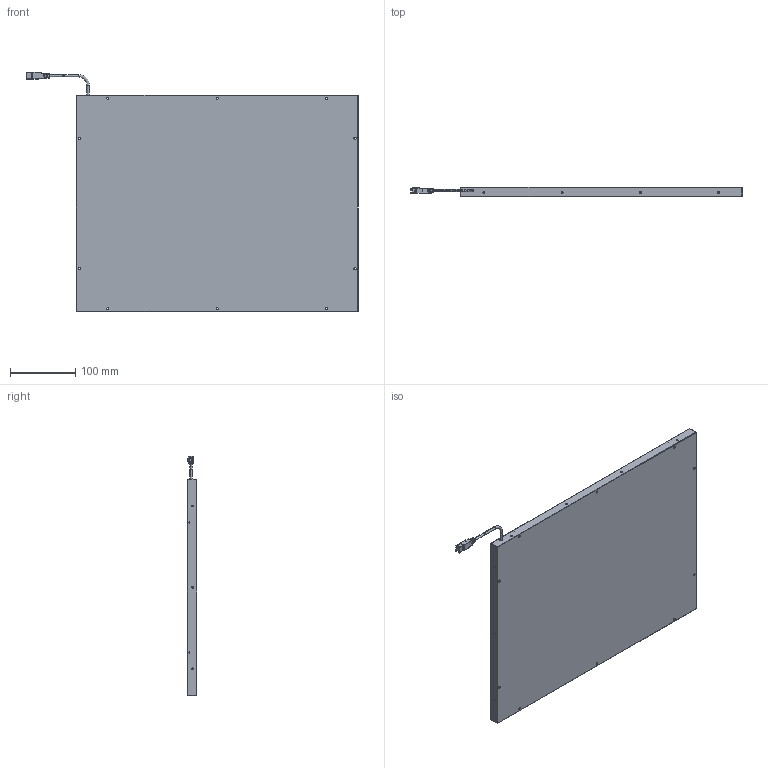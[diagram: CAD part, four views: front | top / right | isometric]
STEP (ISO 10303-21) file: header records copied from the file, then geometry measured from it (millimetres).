
FILE_DESCRIPTION((''),'2;1');
FILE_NAME('MV-LBFH-400-300_ASM','2019-09-19T',('Administrator'),(''),'PRO/ENGINEER BY PARAMETRIC TECHNOLOGY CORPORATION, 2010100','PRO/ENGINEER BY PARAMETRIC TECHNOLOGY CORPORATION, 2010100','');
FILE_SCHEMA(('CONFIG_CONTROL_DESIGN'));
Length unit declared in the file: millimetre
Products named in the file (5): ZHOUQUAN1_4; LINE_TOU_1; XIAN_1; ASSY_ASM_1_ASM; MV-LBFH-400-300_ASM
Assembly tree (4 placements, depth 3):
  MV-LBFH-400-300_ASM
    ZHOUQUAN1_4
    ASSY_ASM_1_ASM
      LINE_TOU_1
      XIAN_1
Bounding box: 509.43 x 14.5 x 367.25 mm (x, y, z)
Volume: 1923551 mm3; surface area: 315733.9 mm2
Topology: 3 solids, 17 shells, 416 faces, 1060 edges, 665 vertices
Faces by surface type: plane 186, cylinder 168, cone 35, torus 10, bspline 8, sphere 8, extrusion 1
Entity records: 12880 total; most frequent: CARTESIAN_POINT 2687, DIRECTION 2178, ORIENTED_EDGE 1992, EDGE_CURVE 1024, AXIS2_PLACEMENT_3D 797, VERTEX_POINT 665, VECTOR 584, LINE 583
